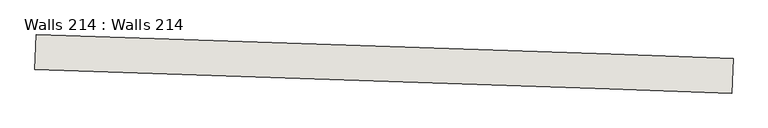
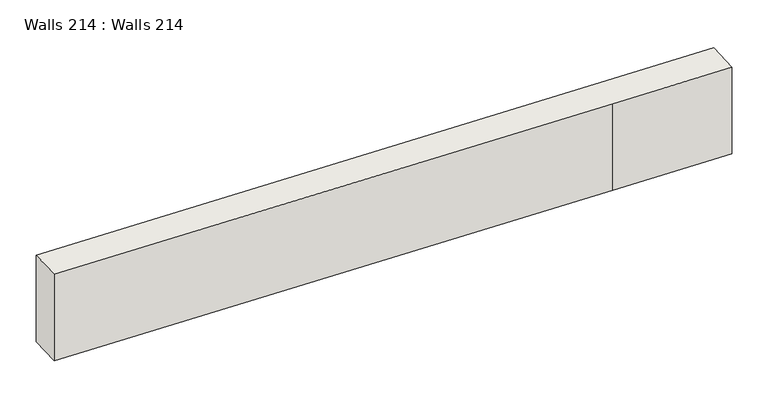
"""IFC4 building model written with IfcOpenShell, lengths in millimetres: wall geometry, Walls 214 : Walls 214."""

from ifc_helpers import new_model, si_unit, point, frame, frame_2d, origin, place, context, project, spatial, polyline, circle_curve, trimmed, segment, composite_curve, outline, extrude, source, transform, mapped, element, save


def walls_214_walls_214_f0536220(model_context):
    return source(origin(), model_context, "Body", "SweptSolid", [
        extrude(outline(composite_curve([segment(trimmed(circle_curve(frame_2d((-800043.7786611, -658795.7254934)), 250400.00088), [point((-791622.4934902, -408537.3741907))], [point((-790218.0431088, -408588.5805884))], False, "CARTESIAN"), True, "CONTINUOUS"), segment(polyline([(-790218.0431088, -408588.5805884), (-790233.739172, -408988.2725118)]), True, "CONTINUOUS"), segment(trimmed(circle_curve(frame_2d((-800043.7786611, -658795.7254934)), 250000.00088), [point((-790233.739172, -408988.2725118))], [point((-791635.9460224, -408937.1479134))], True, "CARTESIAN"), True, "CONTINUOUS"), segment(polyline([(-791635.9460224, -408937.1479134), (-798229.0738373, -408715.2867479), (-798215.6213051, -408315.5130252), (-791622.4934902, -408537.3741907)]), True, "CONTINUOUS")], self_intersect=False)), frame((0.0, 0.0, 636860.0), z_axis=(0.0, 0.0, 1.0), x_axis=(1.0, 0.0, 0.0)), (0.0, 0.0, 1.0), 1100.0),
    ])


if __name__ == "__main__":
    model = new_model("IFC4")
    model_context = context("Model", 3, world=origin())
    ifc_project = project(units=[si_unit("LENGTHUNIT", "METRE", prefix="MILLI")], contexts=[model_context])
    site = spatial("IfcSite", under=ifc_project)
    building = spatial("IfcBuilding", under=site)
    placement = place(None, origin())
    walls_214_walls_214_shape = walls_214_walls_214_f0536220(model_context)
    element("IfcWall", 1, ObjectType="Walls 214 : Walls 214", at=placement, inside=building, context=model_context, shape_type="MappedRepresentation", body=[
        mapped(walls_214_walls_214_shape, transform((0.0, 0.0, 0.0), x_axis=(1.0, 0.0, 0.0), y_axis=(0.0, 1.0, 0.0), z_axis=(0.0, 0.0, 1.0))),
    ])
    save(model, "model.ifc")
